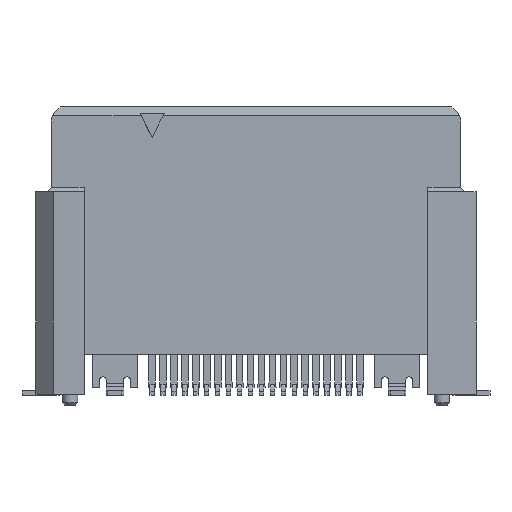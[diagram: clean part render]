
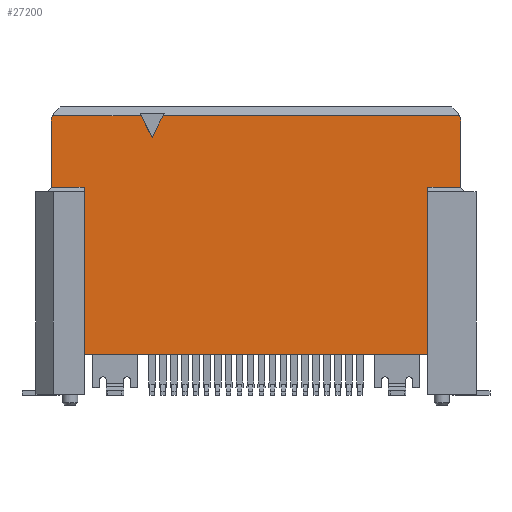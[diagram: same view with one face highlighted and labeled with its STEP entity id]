
A CAD part, front view. The second image highlights one B-rep face of the part: STEP entity #27200.
In plain terms, the highlighted planar face has unit normal (0, -1, 0) as drawn and (1, 0, 0) by its records, which use the part's own axes.
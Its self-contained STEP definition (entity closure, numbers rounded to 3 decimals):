
#25050=CARTESIAN_POINT('',(5.47,4.45,-7.11));
#25060=VERTEX_POINT('',#25050);
#25230=CARTESIAN_POINT('',(5.47,4.45,-5.61));
#25240=VERTEX_POINT('',#25230);
#25270=CARTESIAN_POINT('',(5.47,4.45,-6.36));
#25280=DIRECTION('',(0.,0.,-1.));
#25290=VECTOR('',#25280,1.);
#25300=LINE('',#25270,#25290);
#25310=EDGE_CURVE('',#25240,#25060,#25300,.T.);
#26180=CARTESIAN_POINT('',(5.47,-1.167,8.95));
#26190=DIRECTION('',(-1.,0.,0.));
#26200=DIRECTION('',(0.,1.,0.));
#26210=AXIS2_PLACEMENT_3D('',#26180,#26190,#26200);
#26220=PLANE('',#26210);
#26230=CARTESIAN_POINT('',(5.47,0.,-5.61));
#26240=DIRECTION('',(0.,1.,0.));
#26250=VECTOR('',#26240,1.);
#26260=LINE('',#26230,#26250);
#26270=CARTESIAN_POINT('',(5.47,-3.18,-5.61));
#26280=VERTEX_POINT('',#26270);
#26290=EDGE_CURVE('',#26280,#25240,#26260,.T.);
#26300=ORIENTED_EDGE('',*,*,#26290,.T.);
#26310=CARTESIAN_POINT('',(5.47,-3.18,9.5));
#26320=DIRECTION('',(0.,0.,1.));
#26330=VECTOR('',#26320,1.);
#26340=LINE('',#26310,#26330);
#26350=CARTESIAN_POINT('',(5.47,-3.18,10.11));
#26360=VERTEX_POINT('',#26350);
#26370=EDGE_CURVE('',#26280,#26360,#26340,.T.);
#26380=ORIENTED_EDGE('',*,*,#26370,.F.);
#26390=CARTESIAN_POINT('',(5.47,0.,10.11));
#26400=DIRECTION('',(0.,1.,0.));
#26410=VECTOR('',#26400,1.);
#26420=LINE('',#26390,#26410);
#26430=CARTESIAN_POINT('',(5.47,4.45,10.11));
#26440=VERTEX_POINT('',#26430);
#26450=EDGE_CURVE('',#26360,#26440,#26420,.T.);
#26460=ORIENTED_EDGE('',*,*,#26450,.F.);
#26470=CARTESIAN_POINT('',(5.47,4.45,10.86));
#26480=DIRECTION('',(0.,0.,1.));
#26490=VECTOR('',#26480,1.);
#26500=LINE('',#26470,#26490);
#26510=CARTESIAN_POINT('',(5.47,4.45,11.61));
#26520=VERTEX_POINT('',#26510);
#26530=EDGE_CURVE('',#26440,#26520,#26500,.T.);
#26540=ORIENTED_EDGE('',*,*,#26530,.F.);
#26550=CARTESIAN_POINT('',(5.47,0.,11.61));
#26560=DIRECTION('',(0.,-1.,0.));
#26570=VECTOR('',#26560,1.);
#26580=LINE('',#26550,#26570);
#26590=CARTESIAN_POINT('',(5.47,7.58,11.61));
#26600=VERTEX_POINT('',#26590);
#26610=EDGE_CURVE('',#26600,#26520,#26580,.T.);
#26620=ORIENTED_EDGE('',*,*,#26610,.T.);
#26630=CARTESIAN_POINT('',(5.47,7.83,11.51));
#26640=DIRECTION('',(0.,-0.928,0.371));
#26650=VECTOR('',#26640,1.);
#26660=LINE('',#26630,#26650);
#26670=CARTESIAN_POINT('',(5.47,7.73,11.55));
#26680=VERTEX_POINT('',#26670);
#26690=EDGE_CURVE('',#26680,#26600,#26660,.T.);
#26700=ORIENTED_EDGE('',*,*,#26690,.T.);
#26710=CARTESIAN_POINT('',(5.47,7.73,9.25));
#26720=DIRECTION('',(0.,0.,-1.));
#26730=VECTOR('',#26720,1.);
#26740=LINE('',#26710,#26730);
#26750=CARTESIAN_POINT('',(5.47,7.73,7.5));
#26760=VERTEX_POINT('',#26750);
#26770=EDGE_CURVE('',#26680,#26760,#26740,.T.);
#26780=ORIENTED_EDGE('',*,*,#26770,.F.);
#26790=CARTESIAN_POINT('',(5.47,0.,3.635));
#26800=DIRECTION('',(0.,-0.894,-0.447));
#26810=VECTOR('',#26800,1.);
#26820=LINE('',#26790,#26810);
#26830=CARTESIAN_POINT('',(5.47,6.73,7.));
#26840=VERTEX_POINT('',#26830);
#26850=EDGE_CURVE('',#26760,#26840,#26820,.T.);
#26860=ORIENTED_EDGE('',*,*,#26850,.F.);
#26870=CARTESIAN_POINT('',(5.47,0.,10.365));
#26880=DIRECTION('',(0.,0.894,-0.447));
#26890=VECTOR('',#26880,1.);
#26900=LINE('',#26870,#26890);
#26910=CARTESIAN_POINT('',(5.47,7.73,6.5));
#26920=VERTEX_POINT('',#26910);
#26930=EDGE_CURVE('',#26840,#26920,#26900,.T.);
#26940=ORIENTED_EDGE('',*,*,#26930,.F.);
#26950=CARTESIAN_POINT('',(5.47,7.73,9.25));
#26960=DIRECTION('',(0.,0.,-1.));
#26970=VECTOR('',#26960,1.);
#26980=LINE('',#26950,#26970);
#26990=CARTESIAN_POINT('',(5.47,7.73,-7.05));
#27000=VERTEX_POINT('',#26990);
#27010=EDGE_CURVE('',#26920,#27000,#26980,.T.);
#27020=ORIENTED_EDGE('',*,*,#27010,.F.);
#27030=CARTESIAN_POINT('',(5.47,7.83,-7.01));
#27040=DIRECTION('',(0.,-0.928,-0.371));
#27050=VECTOR('',#27040,1.);
#27060=LINE('',#27030,#27050);
#27070=CARTESIAN_POINT('',(5.47,7.58,-7.11));
#27080=VERTEX_POINT('',#27070);
#27090=EDGE_CURVE('',#27000,#27080,#27060,.T.);
#27100=ORIENTED_EDGE('',*,*,#27090,.F.);
#27110=CARTESIAN_POINT('',(5.47,0.,-7.11));
#27120=DIRECTION('',(0.,-1.,0.));
#27130=VECTOR('',#27120,1.);
#27140=LINE('',#27110,#27130);
#27150=EDGE_CURVE('',#27080,#25060,#27140,.T.);
#27160=ORIENTED_EDGE('',*,*,#27150,.F.);
#27170=ORIENTED_EDGE('',*,*,#25310,.T.);
#27180=EDGE_LOOP('',(#27170,#27160,#27100,#27020,#26940,#26860,#26780,
#26700,#26620,#26540,#26460,#26380,#26300));
#27190=FACE_OUTER_BOUND('',#27180,.T.);
#27200=ADVANCED_FACE('',(#27190),#26220,.F.);
